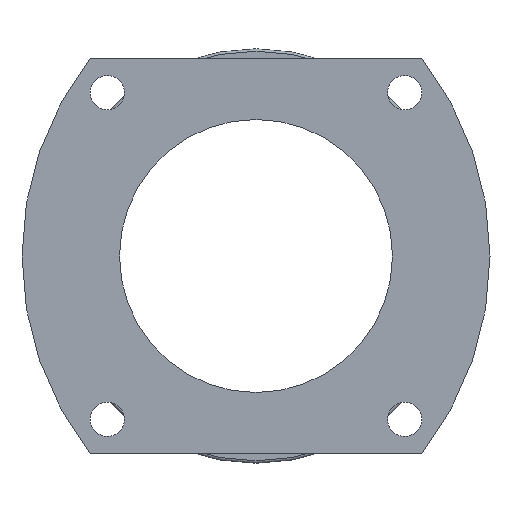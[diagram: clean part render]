
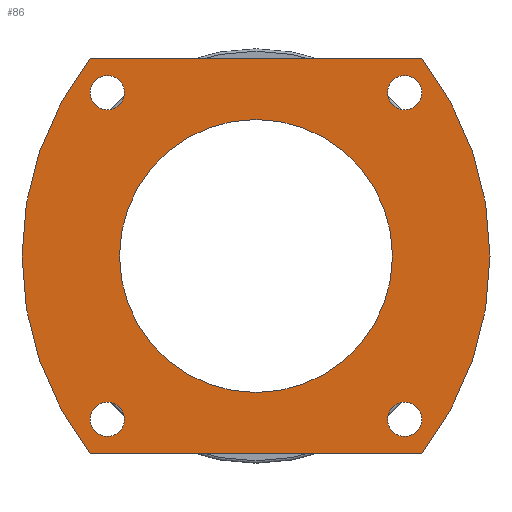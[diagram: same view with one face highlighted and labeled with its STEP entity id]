
A CAD part, left-side view. The second image highlights one B-rep face of the part: STEP entity #86.
In plain terms, the highlighted planar face has unit normal (-1, 0, 0).
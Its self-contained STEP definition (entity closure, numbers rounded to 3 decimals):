
#86 = ADVANCED_FACE( '', ( #211, #212, #213, #214, #215, #216 ), #217, .F. );
#211 = FACE_BOUND( '', #406, .T. );
#212 = FACE_BOUND( '', #407, .T. );
#213 = FACE_BOUND( '', #408, .T. );
#214 = FACE_BOUND( '', #409, .T. );
#215 = FACE_BOUND( '', #410, .T. );
#216 = FACE_OUTER_BOUND( '', #411, .T. );
#217 = PLANE( '', #412 );
#406 = EDGE_LOOP( '', ( #611 ) );
#407 = EDGE_LOOP( '', ( #612 ) );
#408 = EDGE_LOOP( '', ( #613 ) );
#409 = EDGE_LOOP( '', ( #614 ) );
#410 = EDGE_LOOP( '', ( #615 ) );
#411 = EDGE_LOOP( '', ( #616, #617, #618, #619 ) );
#412 = AXIS2_PLACEMENT_3D( '', #620, #621, #622 );
#611 = ORIENTED_EDGE( '', *, *, #883, .T. );
#612 = ORIENTED_EDGE( '', *, *, #884, .T. );
#613 = ORIENTED_EDGE( '', *, *, #868, .T. );
#614 = ORIENTED_EDGE( '', *, *, #885, .T. );
#615 = ORIENTED_EDGE( '', *, *, #874, .T. );
#616 = ORIENTED_EDGE( '', *, *, #886, .F. );
#617 = ORIENTED_EDGE( '', *, *, #887, .F. );
#618 = ORIENTED_EDGE( '', *, *, #888, .F. );
#619 = ORIENTED_EDGE( '', *, *, #889, .F. );
#620 = CARTESIAN_POINT( '', ( -39.2, 17.58, 0. ) );
#621 = DIRECTION( '', ( 1., 0., 0. ) );
#622 = DIRECTION( '', ( 0., 0., -1. ) );
#868 = EDGE_CURVE( '', #976, #976, #977, .T. );
#874 = EDGE_CURVE( '', #986, #986, #987, .T. );
#883 = EDGE_CURVE( '', #1000, #1000, #1001, .T. );
#884 = EDGE_CURVE( '', #1002, #1002, #1003, .T. );
#885 = EDGE_CURVE( '', #1004, #1004, #1005, .T. );
#886 = EDGE_CURVE( '', #1006, #1007, #1008, .T. );
#887 = EDGE_CURVE( '', #1009, #1006, #1010, .T. );
#888 = EDGE_CURVE( '', #1011, #1009, #1012, .T. );
#889 = EDGE_CURVE( '', #1007, #1011, #1013, .T. );
#976 = VERTEX_POINT( '', #1132 );
#977 = CIRCLE( '', #1133, 3.5 );
#986 = VERTEX_POINT( '', #1142 );
#987 = CIRCLE( '', #1143, 3.5 );
#1000 = VERTEX_POINT( '', #1156 );
#1001 = CIRCLE( '', #1157, 28. );
#1002 = VERTEX_POINT( '', #1158 );
#1003 = CIRCLE( '', #1159, 3.5 );
#1004 = VERTEX_POINT( '', #1160 );
#1005 = CIRCLE( '', #1161, 3.5 );
#1006 = VERTEX_POINT( '', #1162 );
#1007 = VERTEX_POINT( '', #1163 );
#1008 = LINE( '', #1164, #1165 );
#1009 = VERTEX_POINT( '', #1166 );
#1010 = CIRCLE( '', #1167, 65.58 );
#1011 = VERTEX_POINT( '', #1168 );
#1012 = LINE( '', #1169, #1170 );
#1013 = CIRCLE( '', #1171, 65.58 );
#1132 = CARTESIAN_POINT( '', ( -39.2, 30.5, 30. ) );
#1133 = AXIS2_PLACEMENT_3D( '', #1298, #1299, #1300 );
#1142 = CARTESIAN_POINT( '', ( -39.2, 30.5, -37. ) );
#1143 = AXIS2_PLACEMENT_3D( '', #1310, #1311, #1312 );
#1156 = CARTESIAN_POINT( '', ( -39.2, 0., -28. ) );
#1157 = AXIS2_PLACEMENT_3D( '', #1325, #1326, #1327 );
#1158 = CARTESIAN_POINT( '', ( -39.2, -30.5, 30. ) );
#1159 = AXIS2_PLACEMENT_3D( '', #1328, #1329, #1330 );
#1160 = CARTESIAN_POINT( '', ( -39.2, -30.5, -37. ) );
#1161 = AXIS2_PLACEMENT_3D( '', #1331, #1332, #1333 );
#1162 = CARTESIAN_POINT( '', ( -39.2, 34., 40.5 ) );
#1163 = CARTESIAN_POINT( '', ( -39.2, -34., 40.5 ) );
#1164 = CARTESIAN_POINT( '', ( -39.2, 34., 40.5 ) );
#1165 = VECTOR( '', #1334, 1000. );
#1166 = CARTESIAN_POINT( '', ( -39.2, 34., -40.5 ) );
#1167 = AXIS2_PLACEMENT_3D( '', #1335, #1336, #1337 );
#1168 = CARTESIAN_POINT( '', ( -39.2, -34., -40.5 ) );
#1169 = CARTESIAN_POINT( '', ( -39.2, -34., -40.5 ) );
#1170 = VECTOR( '', #1338, 1000. );
#1171 = AXIS2_PLACEMENT_3D( '', #1339, #1340, #1341 );
#1298 = CARTESIAN_POINT( '', ( -39.2, 30.5, 33.5 ) );
#1299 = DIRECTION( '', ( 1., 0., 0. ) );
#1300 = DIRECTION( '', ( 0., 0., -1. ) );
#1310 = CARTESIAN_POINT( '', ( -39.2, 30.5, -33.5 ) );
#1311 = DIRECTION( '', ( 1., 0., 0. ) );
#1312 = DIRECTION( '', ( 0., 0., -1. ) );
#1325 = CARTESIAN_POINT( '', ( -39.2, 0., 0. ) );
#1326 = DIRECTION( '', ( 1., 0., 0. ) );
#1327 = DIRECTION( '', ( 0., 0., -1. ) );
#1328 = CARTESIAN_POINT( '', ( -39.2, -30.5, 33.5 ) );
#1329 = DIRECTION( '', ( 1., 0., 0. ) );
#1330 = DIRECTION( '', ( 0., 0., -1. ) );
#1331 = CARTESIAN_POINT( '', ( -39.2, -30.5, -33.5 ) );
#1332 = DIRECTION( '', ( 1., 0., 0. ) );
#1333 = DIRECTION( '', ( 0., 0., -1. ) );
#1334 = DIRECTION( '', ( 0., -1., 0. ) );
#1335 = CARTESIAN_POINT( '', ( -39.2, -17.58, 0. ) );
#1336 = DIRECTION( '', ( 1., 0., 0. ) );
#1337 = DIRECTION( '', ( 0., 0., -1. ) );
#1338 = DIRECTION( '', ( 0., 1., 0. ) );
#1339 = CARTESIAN_POINT( '', ( -39.2, 17.58, 0. ) );
#1340 = DIRECTION( '', ( 1., 0., 0. ) );
#1341 = DIRECTION( '', ( 0., 0., -1. ) );
